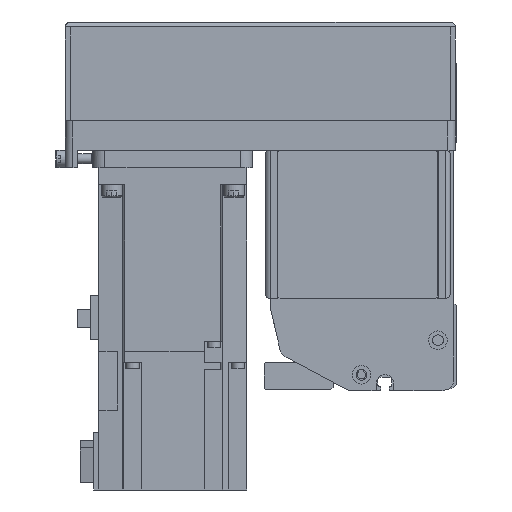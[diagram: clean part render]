
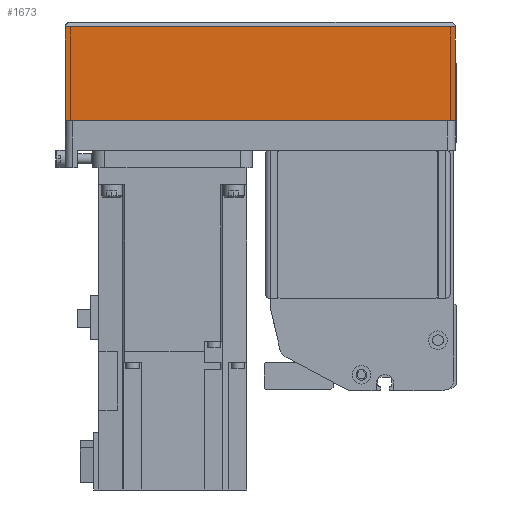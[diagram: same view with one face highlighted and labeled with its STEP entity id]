
A CAD part, left-side view. The second image highlights one B-rep face of the part: STEP entity #1673.
In plain terms, the highlighted planar face has unit normal (-1, 0, 0) as drawn and (0, 1, 0) by its records, which use the part's own axes.
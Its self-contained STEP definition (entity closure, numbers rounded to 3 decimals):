
#1673 = ADVANCED_FACE( '', ( #4006 ), #4007, .T. );
#4006 = FACE_OUTER_BOUND( '', #7127, .T. );
#4007 = PLANE( '', #7128 );
#7127 = EDGE_LOOP( '', ( #11826, #11827, #11828, #11829 ) );
#7128 = AXIS2_PLACEMENT_3D( '', #11830, #11831, #11832 );
#11826 = ORIENTED_EDGE( '', *, *, #19254, .F. );
#11827 = ORIENTED_EDGE( '', *, *, #19255, .F. );
#11828 = ORIENTED_EDGE( '', *, *, #19151, .T. );
#11829 = ORIENTED_EDGE( '', *, *, #19055, .T. );
#11830 = CARTESIAN_POINT( '', ( -158., 39., -50. ) );
#11831 = DIRECTION( '', ( 0., 1., 0. ) );
#11832 = DIRECTION( '', ( 0., 0., 1. ) );
#19055 = EDGE_CURVE( '', #23258, #23216, #23259, .T. );
#19151 = EDGE_CURVE( '', #23413, #23258, #23414, .T. );
#19254 = EDGE_CURVE( '', #23582, #23216, #23583, .T. );
#19255 = EDGE_CURVE( '', #23413, #23582, #23584, .T. );
#23216 = VERTEX_POINT( '', #29128 );
#23258 = VERTEX_POINT( '', #29186 );
#23259 = LINE( '', #29187, #29188 );
#23413 = VERTEX_POINT( '', #29396 );
#23414 = LINE( '', #29397, #29398 );
#23582 = VERTEX_POINT( '', #29633 );
#23583 = LINE( '', #29634, #29635 );
#23584 = LINE( '', #29636, #29637 );
#29128 = CARTESIAN_POINT( '', ( 0., 39., -12.1 ) );
#29186 = CARTESIAN_POINT( '', ( -158., 39., -12.1 ) );
#29187 = CARTESIAN_POINT( '', ( -158., 39., -12.1 ) );
#29188 = VECTOR( '', #34761, 1000. );
#29396 = CARTESIAN_POINT( '', ( -158., 39., -50. ) );
#29397 = CARTESIAN_POINT( '', ( -158., 39., -50. ) );
#29398 = VECTOR( '', #34896, 1000. );
#29633 = CARTESIAN_POINT( '', ( 0., 39., -50. ) );
#29634 = CARTESIAN_POINT( '', ( 0., 39., -50. ) );
#29635 = VECTOR( '', #35017, 1000. );
#29636 = CARTESIAN_POINT( '', ( -158., 39., -50. ) );
#29637 = VECTOR( '', #35018, 1000. );
#34761 = DIRECTION( '', ( 1., 0., 0. ) );
#34896 = DIRECTION( '', ( 0., 0., 1. ) );
#35017 = DIRECTION( '', ( 0., 0., 1. ) );
#35018 = DIRECTION( '', ( 1., 0., 0. ) );
